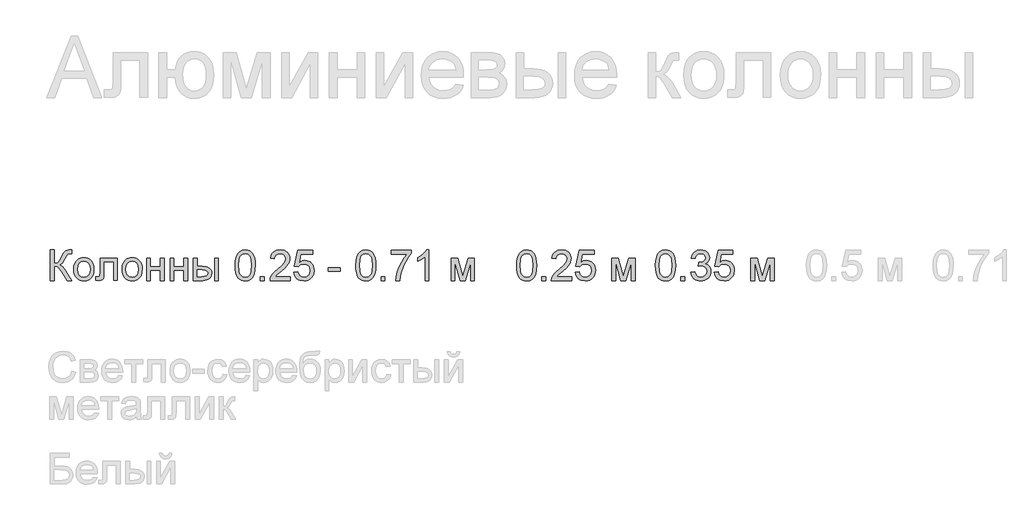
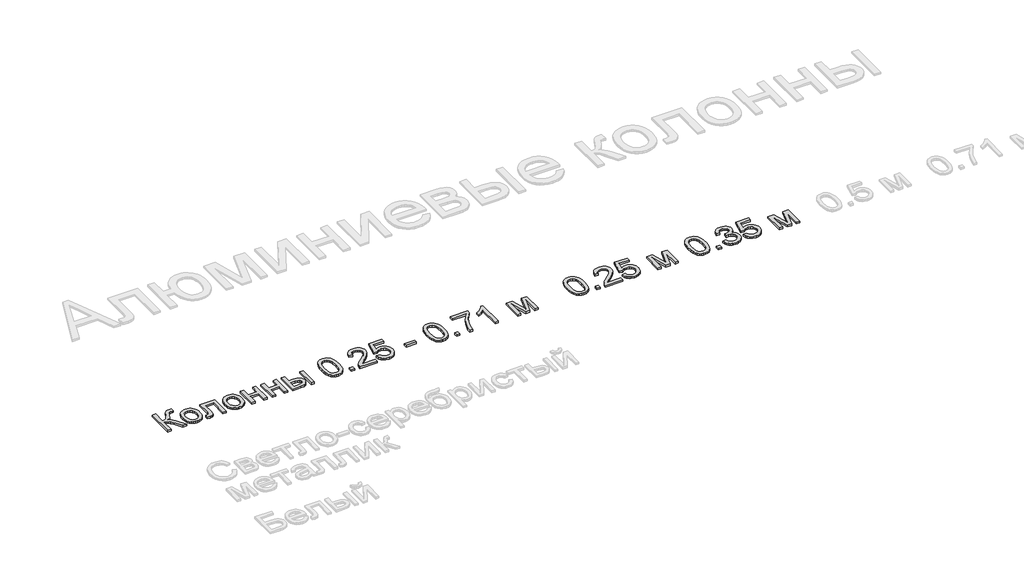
# One storey, part 78 of 168: 3 proxies.
"""IFC4 building model written with IfcOpenShell, lengths in millimetres."""

from ifc_helpers import new_model, si_unit, origin, origin_with_axes, place, context, project, spatial, polyline, outline, extrude, element, save

model = new_model("IFC4")

# Units and contexts
model_context = context("Model", 3, world=origin())
ifc_project = project(units=[si_unit("LENGTHUNIT", "METRE", prefix="MILLI")], contexts=[model_context])

# Site, building, storey
site = spatial("IfcSite", under=ifc_project)
building = spatial("IfcBuilding", under=site)
storey = spatial("IfcBuildingStorey", under=building, Name="Этаж 01", Elevation=0.0)

# Proxies
placement = place(None, origin())
element("IfcBuildingElementProxy", 1, Name="300 мм Arial 2", ObjectType="300 мм Arial 2", at=placement, inside=storey, context=model_context, shape_type="SweptSolid", body=[
    extrude(outline(polyline([(5364.6910629, -30818.6058537), (5367.459375, -30770.3673271), (5375.764311, -30731.8960674), (5389.5230976, -30702.6034635), (5408.6529614, -30681.9009043), (5433.291858, -30669.5952515), (5463.5777433, -30665.4933673), (5486.7910971, -30667.9213885), (5507.5764299, -30675.205452), (5524.9588541, -30687.0604493), (5537.9634827, -30703.2012718), (5547.7859319, -30723.4899638), (5555.6218184, -30747.7885696), (5560.7537723, -30778.644672), (5562.4644236, -30818.6058537), (5559.7237027, -30866.5684688), (5551.5015401, -30904.9477579), (5537.8255269, -30934.267953), (5518.7232543, -30955.0532857), (5494.0291754, -30967.4417119), (5463.5777433, -30971.5711873), (5442.8291987, -30969.7777625), (5424.435099, -30964.3974884), (5408.395444, -30955.4303647), (5394.7102338, -30942.8763916), (5381.5768465, -30920.1826711), (5372.1958556, -30891.9063412), (5366.5672611, -30858.0474021), (5364.6910629, -30818.6058537)]), holes=[polyline([(5402.3621793, -30818.5322773), (5406.7767632, -30877.7888697), (5412.2949931, -30898.0568683), (5420.020515, -30912.0846687), (5439.73899, -30928.4462204), (5463.5777433, -30933.900071), (5487.4164965, -30928.4278263), (5507.1349715, -30912.0110923), (5514.8604934, -30897.9602993), (5520.3787233, -30877.6968992), (5524.7933072, -30818.5322773), (5520.5258761, -30760.6092571), (5515.1915872, -30740.4079371), (5507.7235827, -30726.0467437), (5488.0418959, -30708.8850486), (5463.1362849, -30703.1644836), (5439.555049, -30708.2044669), (5420.6091262, -30723.3244169), (5412.6260869, -30738.9594017), (5406.923916, -30760.03904), (5402.3621793, -30818.5322773)])]), origin_with_axes(), (0.0, 0.0, 1.0), 20.0),
    extrude(outline(polyline([(5614.2622085, -30966.8622977), (5614.2622085, -30929.1911814), (5651.9333248, -30929.1911814), (5651.9333248, -30966.8622977), (5614.2622085, -30966.8622977)])), origin_with_axes(), (0.0, 0.0, 1.0), 20.0),
    extrude(outline(polyline([(5906.2133598, -30929.1911814), (5906.2133598, -30966.8622977), (5708.4399992, -30966.8622977), (5712.4867012, -30940.8898289), (5721.7757216, -30920.5919398), (5735.3689613, -30900.901056), (5755.0322539, -30880.2904672), (5782.5314331, -30857.2334632), (5823.1823935, -30821.1258453), (5847.5729698, -30794.4727948), (5859.768258, -30772.8413335), (5863.833354, -30751.7984834), (5859.9981842, -30732.9353341), (5848.4926748, -30717.254364), (5830.8067479, -30706.6869537), (5808.4303255, -30703.1644836), (5784.9318631, -30706.6041802), (5766.6757191, -30716.9232702), (5754.8942982, -30733.3124131), (5750.8200051, -30754.9622685), (5713.1488888, -30750.253379), (5722.2815593, -30713.8146674), (5730.8279179, -30699.27873), (5742.0276254, -30687.198405), (5755.6231644, -30677.702451), (5771.3570175, -30670.9196267), (5809.2396659, -30665.4933673), (5829.4294897, -30667.0016835), (5847.3982259, -30671.526632), (5863.1458745, -30679.0682129), (5876.6724356, -30689.6264262), (5887.5364508, -30702.4195226), (5895.2964616, -30716.6657528), (5899.9524681, -30732.365117), (5901.5044703, -30749.517615), (5899.8306072, -30767.5346357), (5894.809018, -30785.2389567), (5885.8970767, -30803.2467804), (5872.5521573, -30822.174309), (5851.2793809, -30844.7714606), (5818.5838686, -30873.788153), (5775.2473696, -30910.0245295), (5758.2512214, -30929.1911814), (5906.2133598, -30929.1911814)])), origin_with_axes(), (0.0, 0.0, 1.0), 20.0),
    extrude(outline(polyline([(5943.8844762, -30886.8111756), (5981.5555925, -30882.102286), (5988.471774, -30904.7178317), (6000.5383034, -30920.9138365), (6017.6999985, -30930.6535124), (6039.9016769, -30933.900071), (6066.9042153, -30929.3843195), (6087.1377251, -30915.837065), (6099.7744716, -30894.821806), (6103.9867205, -30867.902041), (6100.0411861, -30842.5549716), (6088.2045829, -30823.1675904), (6068.3849404, -30810.8619377), (6040.4902881, -30806.7600534), (6022.21575, -30808.3971283), (6007.4176967, -30813.3083529), (5986.264482, -30830.3045011), (5948.5933657, -30825.5956116), (5981.5555925, -30670.2022568), (6127.5311681, -30670.2022568), (6127.5311681, -30707.8733731), (6012.0162217, -30707.8733731), (5995.9029903, -30790.8675512), (6022.8135582, -30774.5335907), (6051.0117131, -30769.0889371), (6069.3575284, -30770.7765958), (6086.208823, -30775.8395717), (6101.5655971, -30784.277865), (6115.4278505, -30796.0914756), (6126.9034695, -30810.558435), (6135.1003402, -30826.956775), (6140.0184626, -30845.2864954), (6141.6578368, -30865.5475963), (6135.7533307, -30903.2187126), (6128.3726982, -30920.0125256), (6118.0398127, -30935.4451753), (6102.3864338, -30951.2503056), (6084.1210927, -30962.5396843), (6063.2437895, -30969.3133115), (6039.7545241, -30971.5711873), (6002.7547924, -30965.7678488), (5987.0761217, -30958.5136757), (5973.2782476, -30948.3578334), (5961.7980301, -30935.8061596), (5953.072329, -30921.364492), (5943.8844762, -30886.8111756)])), origin_with_axes(), (0.0, 0.0, 1.0), 20.0),
    extrude(outline(polyline([(6301.7600811, -30745.5444894), (6366.5808886, -30745.5444894), (6416.5392636, -30922.7164583), (6470.3971877, -30745.5444894), (6532.4956684, -30745.5444894), (6532.4956684, -30966.8622977), (6494.8245521, -30966.8622977), (6494.8245521, -30788.6602593), (6440.6723224, -30966.8622977), (6391.2289823, -30966.8622977), (6339.4311974, -30780.125397), (6339.4311974, -30966.8622977), (6301.7600811, -30966.8622977), (6301.7600811, -30745.5444894)])), origin_with_axes(), (0.0, 0.0, 1.0), 20.0),
])
element("IfcBuildingElementProxy", 2, Name="300 мм Arial 2", ObjectType="300 мм Arial 2", at=placement, inside=storey, context=model_context, shape_type="SweptSolid", body=[
    extrude(outline(polyline([(6730.6567427, -30818.6058537), (6733.4250547, -30770.3673271), (6741.7299907, -30731.8960674), (6755.4887774, -30702.6034635), (6774.6186411, -30681.9009043), (6799.2575377, -30669.5952515), (6829.543423, -30665.4933673), (6852.7567769, -30667.9213885), (6873.5421096, -30675.205452), (6890.9245339, -30687.0604493), (6903.9291624, -30703.2012718), (6913.7516117, -30723.4899638), (6921.5874982, -30747.7885696), (6926.719452, -30778.644672), (6928.4301033, -30818.6058537), (6925.6893824, -30866.5684688), (6917.4672198, -30904.9477579), (6903.7912067, -30934.267953), (6884.6889341, -30955.0532857), (6859.9948551, -30967.4417119), (6829.543423, -30971.5711873), (6808.7948785, -30969.7777625), (6790.4007787, -30964.3974884), (6774.3611237, -30955.4303647), (6760.6759135, -30942.8763916), (6747.5425263, -30920.1826711), (6738.1615354, -30891.9063412), (6732.5329409, -30858.0474021), (6730.6567427, -30818.6058537)]), holes=[polyline([(6768.327859, -30818.5322773), (6772.7424429, -30877.7888697), (6778.2606729, -30898.0568683), (6785.9861948, -30912.0846687), (6805.7046697, -30928.4462204), (6829.543423, -30933.900071), (6853.3821763, -30928.4278263), (6873.1006512, -30912.0110923), (6880.8261731, -30897.9602993), (6886.344403, -30877.6968992), (6890.758987, -30818.5322773), (6886.4915558, -30760.6092571), (6881.1572669, -30740.4079371), (6873.6892624, -30726.0467437), (6854.0075757, -30708.8850486), (6829.1019646, -30703.1644836), (6805.5207287, -30708.2044669), (6786.574806, -30723.3244169), (6778.5917667, -30738.9594017), (6772.8895957, -30760.03904), (6768.327859, -30818.5322773)])]), origin_with_axes(), (0.0, 0.0, 1.0), 20.0),
    extrude(outline(polyline([(6980.2278882, -30966.8622977), (6980.2278882, -30929.1911814), (7017.8990045, -30929.1911814), (7017.8990045, -30966.8622977), (6980.2278882, -30966.8622977)])), origin_with_axes(), (0.0, 0.0, 1.0), 20.0),
    extrude(outline(polyline([(7079.1145685, -30886.8111756), (7116.7856848, -30882.102286), (7125.2193796, -30905.7754924), (7137.5710176, -30921.7599651), (7154.4476041, -30930.8650445), (7176.4561444, -30933.900071), (7202.2814605, -30929.7246103), (7222.2206646, -30917.1982284), (7234.9677758, -30898.509823), (7239.2168128, -30875.8482921), (7235.004564, -30854.3363925), (7222.3678174, -30836.8895888), (7203.2379537, -30825.3288971), (7179.5463532, -30821.4753332), (7153.1324259, -30825.5956116), (7157.3262807, -30787.9244953), (7163.3595454, -30788.3659537), (7185.9291058, -30785.662021), (7206.1074333, -30777.550223), (7220.3444665, -30763.8282246), (7225.0901442, -30744.2936907), (7221.6504475, -30728.0241094), (7211.3313576, -30714.8263428), (7195.5860082, -30706.0799484), (7175.8675332, -30703.1644836), (7156.1122701, -30706.1075396), (7139.9622505, -30714.9367074), (7128.1716326, -30729.6519872), (7121.4945744, -30750.253379), (7083.8234581, -30745.5444894), (7094.9151002, -30711.71774), (7114.6519693, -30686.462641), (7141.6545077, -30670.7356857), (7174.5431581, -30665.4933673), (7198.2255615, -30668.0777383), (7219.9765845, -30675.8308513), (7238.3155019, -30688.0629277), (7251.7615889, -30704.0841886), (7260.0113426, -30722.5426677), (7262.7612605, -30742.0863987), (7260.1492983, -30760.2965574), (7252.3134118, -30776.814459), (7239.3639656, -30790.8859453), (7221.4113243, -30801.7568583), (7244.9925601, -30811.285002), (7262.4669549, -30827.508598), (7273.2826856, -30849.5447295), (7276.8879291, -30876.5104797), (7275.0853073, -30895.6219494), (7269.677442, -30913.2251028), (7260.6643331, -30929.3199401), (7248.0459807, -30943.9064612), (7232.6731118, -30956.0097789), (7215.3964536, -30964.6550058), (7196.2160061, -30969.8421419), (7175.1317693, -30971.5711873), (7156.0754819, -30970.0950608), (7138.7114517, -30965.6666812), (7123.0396787, -30958.2860487), (7109.0601629, -30947.9531632), (7097.3385229, -30935.2750299), (7088.4403771, -30920.8586542), (7082.3657256, -30904.7040361), (7079.1145685, -30886.8111756)])), origin_with_axes(), (0.0, 0.0, 1.0), 20.0),
    extrude(outline(polyline([(7309.8501559, -30886.8111756), (7347.5212722, -30882.102286), (7354.4374537, -30904.7178317), (7366.5039831, -30920.9138365), (7383.6656782, -30930.6535124), (7405.8673566, -30933.900071), (7432.8698951, -30929.3843195), (7453.1034048, -30915.837065), (7465.7401513, -30894.821806), (7469.9524002, -30867.902041), (7466.0068658, -30842.5549716), (7454.1702626, -30823.1675904), (7434.3506201, -30810.8619377), (7406.4559678, -30806.7600534), (7388.1814297, -30808.3971283), (7373.3833765, -30813.3083529), (7352.2301617, -30830.3045011), (7314.5590454, -30825.5956116), (7347.5212722, -30670.2022568), (7493.4968479, -30670.2022568), (7493.4968479, -30707.8733731), (7377.9819014, -30707.8733731), (7361.86867, -30790.8675512), (7388.779238, -30774.5335907), (7416.9773929, -30769.0889371), (7435.3232081, -30770.7765958), (7452.1745028, -30775.8395717), (7467.5312768, -30784.277865), (7481.3935302, -30796.0914756), (7492.8691492, -30810.558435), (7501.0660199, -30826.956775), (7505.9841424, -30845.2864954), (7507.6235165, -30865.5475963), (7501.7190105, -30903.2187126), (7494.3383779, -30920.0125256), (7484.0054924, -30935.4451753), (7468.3521135, -30951.2503056), (7450.0867725, -30962.5396843), (7429.2094692, -30969.3133115), (7405.7202038, -30971.5711873), (7368.7204722, -30965.7678488), (7353.0418014, -30958.5136757), (7339.2439273, -30948.3578334), (7327.7637098, -30935.8061596), (7319.0380087, -30921.364492), (7309.8501559, -30886.8111756)])), origin_with_axes(), (0.0, 0.0, 1.0), 20.0),
    extrude(outline(polyline([(7667.7257608, -30745.5444894), (7732.5465684, -30745.5444894), (7782.5049433, -30922.7164583), (7836.3628674, -30745.5444894), (7898.4613482, -30745.5444894), (7898.4613482, -30966.8622977), (7860.7902319, -30966.8622977), (7860.7902319, -30788.6602593), (7806.6380022, -30966.8622977), (7757.194662, -30966.8622977), (7705.3968771, -30780.125397), (7705.3968771, -30966.8622977), (7667.7257608, -30966.8622977), (7667.7257608, -30745.5444894)])), origin_with_axes(), (0.0, 0.0, 1.0), 20.0),
])
element("IfcBuildingElementProxy", 3, Name="300 мм Arial 2", ObjectType="300 мм Arial 2", at=placement, inside=storey, context=model_context, shape_type="SweptSolid", body=[
    extrude(outline(polyline([(778.8177316, -30665.4933673), (816.4888479, -30665.4933673), (816.4888479, -30797.3422744), (841.9922672, -30794.8498738), (858.6113363, -30787.3726723), (872.0482262, -30769.7787159), (888.0051077, -30736.9360507), (908.7904405, -30694.8135623), (918.8152248, -30683.4000234), (932.3348881, -30673.9546532), (948.3837402, -30667.6086888), (965.9960907, -30665.4933673), (990.7177608, -30665.9348257), (990.7177608, -30703.605942), (982.4036277, -30703.3852128), (974.0894946, -30703.1644836), (956.835829, -30705.4269579), (944.658935, -30712.2143807), (934.1742981, -30726.469808), (922.2917097, -30750.989143), (907.7143856, -30781.5233486), (895.620265, -30798.2251911), (869.611008, -30813.8233877), (884.2021276, -30820.0313964), (898.6920797, -30830.8563241), (927.3684812, -30866.3569367), (990.7177608, -30966.8622977), (947.0133798, -30966.8622977), (893.4497613, -30881.9551332), (872.7655961, -30854.7226686), (855.7418568, -30837.6253528), (838.3318413, -30828.6030469), (816.4888479, -30825.5956116), (816.4888479, -30966.8622977), (778.8177316, -30966.8622977), (778.8177316, -30665.4933673)])), origin_with_axes(), (0.0, 0.0, 1.0), 20.0),
    extrude(outline(polyline([(1009.5533189, -30856.2033936), (1011.5904655, -30827.5407876), (1017.7019051, -30802.8421102), (1027.8876379, -30782.1073612), (1042.1476637, -30765.3365408), (1056.5042586, -30754.6173791), (1072.3507755, -30746.9608351), (1089.6872145, -30742.3669087), (1108.5135756, -30740.8355999), (1129.2966091, -30742.7003018), (1148.0884813, -30748.2944073), (1164.8891921, -30757.6179167), (1179.6987417, -30770.6708297), (1191.7859645, -30787.0116881), (1200.4196951, -30806.1990334), (1205.5999334, -30828.2328656), (1207.3266795, -30853.1131848), (1204.273259, -30891.1705772), (1195.1129973, -30920.1412843), (1180.112609, -30941.837125), (1159.5388084, -30958.069918), (1135.1022468, -30968.19587), (1108.5135756, -30971.5711873), (1087.4270395, -30969.7133832), (1068.4604234, -30964.139971), (1051.6137273, -30954.8509506), (1036.8869512, -30941.8463221), (1024.9284871, -30925.3468146), (1016.386727, -30905.5731573), (1011.261671, -30882.5253503), (1009.5533189, -30856.2033936)]), holes=[polyline([(1047.2244352, -30856.1298172), (1051.5838369, -30890.2232811), (1064.6620418, -30914.5126898), (1084.3437286, -30929.0532257), (1108.5135756, -30933.900071), (1132.5730581, -30929.0256345), (1152.2179567, -30914.4023252), (1165.2961616, -30889.7910197), (1169.6555632, -30854.9525948), (1165.2685704, -30821.8524123), (1152.1075921, -30797.8940973), (1132.4351024, -30783.3535615), (1108.5135756, -30778.5067162), (1084.3437286, -30783.3351674), (1064.6620418, -30797.8205209), (1051.5838369, -30822.0547474), (1047.2244352, -30856.1298172)])]), origin_with_axes(), (0.0, 0.0, 1.0), 20.0),
    extrude(outline(polyline([(1268.5422435, -30745.5444894), (1438.0622669, -30745.5444894), (1438.0622669, -30966.6415685), (1400.3911506, -30966.6415685), (1400.3911506, -30783.2156057), (1306.2133598, -30783.2156057), (1306.2133598, -30888.7977384), (1303.6749741, -30937.5053145), (1298.9200993, -30948.5325773), (1289.7322465, -30958.069918), (1275.7895188, -30964.6642028), (1256.7700197, -30966.8622977), (1226.1622377, -30964.9493114), (1226.1622377, -30929.1911814), (1243.0112331, -30929.1911814), (1260.0441695, -30926.8735249), (1266.8499864, -30919.515885), (1268.5422435, -30886.6640228), (1268.5422435, -30745.5444894)])), origin_with_axes(), (0.0, 0.0, 1.0), 20.0),
    extrude(outline(polyline([(1485.1511623, -30856.2033936), (1487.1883089, -30827.5407876), (1493.2997485, -30802.8421102), (1503.4854812, -30782.1073612), (1517.7455071, -30765.3365408), (1532.1021019, -30754.6173791), (1547.9486189, -30746.9608351), (1565.2850579, -30742.3669087), (1584.111419, -30740.8355999), (1604.8944525, -30742.7003018), (1623.6863246, -30748.2944073), (1640.4870355, -30757.6179167), (1655.2965851, -30770.6708297), (1667.3838079, -30787.0116881), (1676.0175384, -30806.1990334), (1681.1977768, -30828.2328656), (1682.9245229, -30853.1131848), (1679.8711023, -30891.1705772), (1670.7108407, -30920.1412843), (1655.7104523, -30941.837125), (1635.1366517, -30958.069918), (1610.7000902, -30968.19587), (1584.111419, -30971.5711873), (1563.0248829, -30969.7133832), (1544.0582668, -30964.139971), (1527.2115707, -30954.8509506), (1512.4847945, -30941.8463221), (1500.5263304, -30925.3468146), (1491.9845704, -30905.5731573), (1486.8595143, -30882.5253503), (1485.1511623, -30856.2033936)]), holes=[polyline([(1522.8222786, -30856.1298172), (1527.1816803, -30890.2232811), (1540.2598852, -30914.5126898), (1559.9415719, -30929.0532257), (1584.111419, -30933.900071), (1608.1709015, -30929.0256345), (1627.8158, -30914.4023252), (1640.894005, -30889.7910197), (1645.2534066, -30854.9525948), (1640.8664138, -30821.8524123), (1627.7054354, -30797.8940973), (1608.0329457, -30783.3535615), (1584.111419, -30778.5067162), (1559.9415719, -30783.3351674), (1540.2598852, -30797.8205209), (1527.1816803, -30822.0547474), (1522.8222786, -30856.1298172)])]), origin_with_axes(), (0.0, 0.0, 1.0), 20.0),
    extrude(outline(polyline([(1725.3045288, -30745.5444894), (1762.9756451, -30745.5444894), (1762.9756451, -30830.3045011), (1861.8623254, -30830.3045011), (1861.8623254, -30745.5444894), (1899.5334417, -30745.5444894), (1899.5334417, -30966.8622977), (1861.8623254, -30966.8622977), (1861.8623254, -30867.9756174), (1762.9756451, -30867.9756174), (1762.9756451, -30966.8622977), (1725.3045288, -30966.8622977), (1725.3045288, -30745.5444894)])), origin_with_axes(), (0.0, 0.0, 1.0), 20.0),
    extrude(outline(polyline([(1956.0401161, -30745.5444894), (1993.7112324, -30745.5444894), (1993.7112324, -30830.3045011), (2092.5979127, -30830.3045011), (2092.5979127, -30745.5444894), (2130.269029, -30745.5444894), (2130.269029, -30966.8622977), (2092.5979127, -30966.8622977), (2092.5979127, -30867.9756174), (1993.7112324, -30867.9756174), (1993.7112324, -30966.8622977), (1956.0401161, -30966.8622977), (1956.0401161, -30745.5444894)])), origin_with_axes(), (0.0, 0.0, 1.0), 20.0),
    extrude(outline(polyline([(2393.9668432, -30745.5444894), (2431.6379595, -30745.5444894), (2431.6379595, -30966.8622977), (2393.9668432, -30966.8622977), (2393.9668432, -30745.5444894)])), origin_with_axes(), (0.0, 0.0, 1.0), 20.0),
    extrude(outline(polyline([(2186.7757035, -30745.5444894), (2224.4468198, -30745.5444894), (2224.4468198, -30825.5956116), (2271.0206804, -30825.5956116), (2311.2761677, -30830.3136982), (2327.4928659, -30836.2113064), (2341.1022005, -30844.4679579), (2351.8696466, -30854.7985442), (2359.5606796, -30866.9179567), (2364.1752994, -30880.8261954), (2365.713506, -30896.5232603), (2360.553961, -30923.4798135), (2345.075326, -30946.2241178), (2333.2134309, -30955.2533215), (2318.2659256, -30961.7027528), (2279.1140843, -30966.8622977), (2186.7757035, -30966.8622977), (2186.7757035, -30745.5444894)]), holes=[polyline([(2224.4468198, -30929.1911814), (2263.1480057, -30929.1911814), (2293.1487824, -30927.2138157), (2313.1063806, -30921.2817185), (2324.3083874, -30911.1557666), (2328.0423897, -30896.5968367), (2325.2740776, -30884.2911839), (2316.9691416, -30873.420271), (2299.2096383, -30865.8051137), (2268.0776244, -30863.2667279), (2224.4468198, -30863.2667279), (2224.4468198, -30929.1911814)])]), origin_with_axes(), (0.0, 0.0, 1.0), 20.0),
    extrude(outline(polyline([(2596.4490933, -30818.6058537), (2599.2174053, -30770.3673271), (2607.5223414, -30731.8960674), (2621.281128, -30702.6034635), (2640.4109918, -30681.9009043), (2665.0498884, -30669.5952515), (2695.3357736, -30665.4933673), (2718.5491275, -30667.9213885), (2739.3344603, -30675.205452), (2756.7168845, -30687.0604493), (2769.7215131, -30703.2012718), (2779.5439623, -30723.4899638), (2787.3798488, -30747.7885696), (2792.5118027, -30778.644672), (2794.2224539, -30818.6058537), (2791.4817331, -30866.5684688), (2783.2595705, -30904.9477579), (2769.5835573, -30934.267953), (2750.4812847, -30955.0532857), (2725.7872058, -30967.4417119), (2695.3357736, -30971.5711873), (2674.5872291, -30969.7777625), (2656.1931293, -30964.3974884), (2640.1534744, -30955.4303647), (2626.4682641, -30942.8763916), (2613.3348769, -30920.1826711), (2603.953886, -30891.9063412), (2598.3252915, -30858.0474021), (2596.4490933, -30818.6058537)]), holes=[polyline([(2634.1202096, -30818.5322773), (2638.5347936, -30877.7888697), (2644.0530235, -30898.0568683), (2651.7785454, -30912.0846687), (2671.4970203, -30928.4462204), (2695.3357736, -30933.900071), (2719.1745269, -30928.4278263), (2738.8930019, -30912.0110923), (2746.6185238, -30897.9602993), (2752.1367537, -30877.6968992), (2756.5513376, -30818.5322773), (2752.2839065, -30760.6092571), (2746.9496176, -30740.4079371), (2739.4816131, -30726.0467437), (2719.7999263, -30708.8850486), (2694.8943152, -30703.1644836), (2671.3130794, -30708.2044669), (2652.3671566, -30723.3244169), (2644.3841173, -30738.9594017), (2638.6819464, -30760.03904), (2634.1202096, -30818.5322773)])]), origin_with_axes(), (0.0, 0.0, 1.0), 20.0),
    extrude(outline(polyline([(2846.0202389, -30966.8622977), (2846.0202389, -30929.1911814), (2883.6913552, -30929.1911814), (2883.6913552, -30966.8622977), (2846.0202389, -30966.8622977)])), origin_with_axes(), (0.0, 0.0, 1.0), 20.0),
    extrude(outline(polyline([(3137.9713902, -30929.1911814), (3137.9713902, -30966.8622977), (2940.1980296, -30966.8622977), (2944.2447316, -30940.8898289), (2953.533752, -30920.5919398), (2967.1269917, -30900.901056), (2986.7902843, -30880.2904672), (3014.2894635, -30857.2334632), (3054.9404239, -30821.1258453), (3079.3310002, -30794.4727948), (3091.5262883, -30772.8413335), (3095.5913844, -30751.7984834), (3091.7562146, -30732.9353341), (3080.2507052, -30717.254364), (3062.5647783, -30706.6869537), (3040.1883559, -30703.1644836), (3016.6898935, -30706.6041802), (2998.4337495, -30716.9232702), (2986.6523286, -30733.3124131), (2982.5780355, -30754.9622685), (2944.9069192, -30750.253379), (2954.0395897, -30713.8146674), (2962.5859483, -30699.27873), (2973.7856558, -30687.198405), (2987.3811948, -30677.702451), (3003.1150479, -30670.9196267), (3040.9976963, -30665.4933673), (3061.1875201, -30667.0016835), (3079.1562563, -30671.526632), (3094.9039049, -30679.0682129), (3108.430466, -30689.6264262), (3119.2944812, -30702.4195226), (3127.054492, -30716.6657528), (3131.7104985, -30732.365117), (3133.2625007, -30749.517615), (3131.5886376, -30767.5346357), (3126.5670484, -30785.2389567), (3117.655107, -30803.2467804), (3104.3101877, -30822.174309), (3083.0374113, -30844.7714606), (3050.341899, -30873.788153), (3007.0053999, -30910.0245295), (2990.0092518, -30929.1911814), (3137.9713902, -30929.1911814)])), origin_with_axes(), (0.0, 0.0, 1.0), 20.0),
    extrude(outline(polyline([(3175.6425065, -30886.8111756), (3213.3136228, -30882.102286), (3220.2298044, -30904.7178317), (3232.2963338, -30920.9138365), (3249.4580289, -30930.6535124), (3271.6597073, -30933.900071), (3298.6622457, -30929.3843195), (3318.8957555, -30915.837065), (3331.532502, -30894.821806), (3335.7447508, -30867.902041), (3331.7992164, -30842.5549716), (3319.9626132, -30823.1675904), (3300.1429708, -30810.8619377), (3272.2483185, -30806.7600534), (3253.9737804, -30808.3971283), (3239.1757271, -30813.3083529), (3218.0225124, -30830.3045011), (3180.3513961, -30825.5956116), (3213.3136228, -30670.2022568), (3359.2891985, -30670.2022568), (3359.2891985, -30707.8733731), (3243.774252, -30707.8733731), (3227.6610207, -30790.8675512), (3254.5715886, -30774.5335907), (3282.7697435, -30769.0889371), (3301.1155588, -30770.7765958), (3317.9668534, -30775.8395717), (3333.3236275, -30784.277865), (3347.1858809, -30796.0914756), (3358.6614999, -30810.558435), (3366.8583706, -30826.956775), (3371.776493, -30845.2864954), (3373.4158671, -30865.5475963), (3367.5113611, -30903.2187126), (3360.1307286, -30920.0125256), (3349.7978431, -30935.4451753), (3334.1444642, -30951.2503056), (3315.8791231, -30962.5396843), (3295.0018199, -30969.3133115), (3271.5125545, -30971.5711873), (3234.5128228, -30965.7678488), (3218.834152, -30958.5136757), (3205.036278, -30948.3578334), (3193.5560604, -30935.8061596), (3184.8303594, -30921.364492), (3175.6425065, -30886.8111756)])), origin_with_axes(), (0.0, 0.0, 1.0), 20.0),
    extrude(outline(polyline([(3514.6825533, -30877.3933965), (3514.6825533, -30839.7222802), (3632.4047917, -30839.7222802), (3632.4047917, -30877.3933965), (3514.6825533, -30877.3933965)])), origin_with_axes(), (0.0, 0.0, 1.0), 20.0),
    extrude(outline(polyline([(3783.089257, -30818.6058537), (3785.857569, -30770.3673271), (3794.162505, -30731.8960674), (3807.9212916, -30702.6034635), (3827.0511554, -30681.9009043), (3851.690052, -30669.5952515), (3881.9759373, -30665.4933673), (3905.1892912, -30667.9213885), (3925.9746239, -30675.205452), (3943.3570482, -30687.0604493), (3956.3616767, -30703.2012718), (3966.184126, -30723.4899638), (3974.0200125, -30747.7885696), (3979.1519663, -30778.644672), (3980.8626176, -30818.6058537), (3978.1218967, -30866.5684688), (3969.8997341, -30904.9477579), (3956.223721, -30934.267953), (3937.1214484, -30955.0532857), (3912.4273694, -30967.4417119), (3881.9759373, -30971.5711873), (3861.2273927, -30969.7777625), (3842.833293, -30964.3974884), (3826.793638, -30955.4303647), (3813.1084278, -30942.8763916), (3799.9750406, -30920.1826711), (3790.5940497, -30891.9063412), (3784.9654551, -30858.0474021), (3783.089257, -30818.6058537)]), holes=[polyline([(3820.7603733, -30818.5322773), (3825.1749572, -30877.7888697), (3830.6931872, -30898.0568683), (3838.418709, -30912.0846687), (3858.137184, -30928.4462204), (3881.9759373, -30933.900071), (3905.8146906, -30928.4278263), (3925.5331655, -30912.0110923), (3933.2586874, -30897.9602993), (3938.7769173, -30877.6968992), (3943.1915013, -30818.5322773), (3938.9240701, -30760.6092571), (3933.5897812, -30740.4079371), (3926.1217767, -30726.0467437), (3906.44009, -30708.8850486), (3881.5344789, -30703.1644836), (3857.953243, -30708.2044669), (3839.0073202, -30723.3244169), (3831.0242809, -30738.9594017), (3825.32211, -30760.03904), (3820.7603733, -30818.5322773)])]), origin_with_axes(), (0.0, 0.0, 1.0), 20.0),
    extrude(outline(polyline([(4032.6604025, -30966.8622977), (4032.6604025, -30929.1911814), (4070.3315188, -30929.1911814), (4070.3315188, -30966.8622977), (4032.6604025, -30966.8622977)])), origin_with_axes(), (0.0, 0.0, 1.0), 20.0),
    extrude(outline(polyline([(4131.5470828, -30707.8733731), (4131.5470828, -30670.2022568), (4329.3204434, -30670.2022568), (4329.3204434, -30700.662886), (4301.1314855, -30736.3382425), (4273.2184391, -30781.7072896), (4248.5979366, -30832.6313547), (4230.2866103, -30884.9717656), (4221.3102896, -30924.132804), (4216.3070945, -30966.8622977), (4178.6359782, -30966.8622977), (4182.7102713, -30928.0323531), (4193.6087754, -30881.8815568), (4211.0371849, -30832.9624485), (4234.7011943, -30785.8275679), (4262.3291321, -30743.2176358), (4291.6493271, -30707.8733731), (4131.5470828, -30707.8733731)])), origin_with_axes(), (0.0, 0.0, 1.0), 20.0),
    extrude(outline(polyline([(4503.5493563, -30966.8622977), (4465.87824, -30966.8622977), (4465.87824, -30732.006432), (4430.1936865, -30757.4270779), (4390.5360074, -30776.446577), (4390.5360074, -30740.8355999), (4420.1229169, -30724.7407626), (4445.7550949, -30705.5925048), (4465.9610135, -30685.2302363), (4479.2691446, -30665.4933673), (4503.5493563, -30665.4933673), (4503.5493563, -30966.8622977)])), origin_with_axes(), (0.0, 0.0, 1.0), 20.0),
    extrude(outline(polyline([(4720.1582751, -30745.5444894), (4784.9790826, -30745.5444894), (4834.9374576, -30922.7164583), (4888.7953817, -30745.5444894), (4950.8938625, -30745.5444894), (4950.8938625, -30966.8622977), (4913.2227462, -30966.8622977), (4913.2227462, -30788.6602593), (4859.0705165, -30966.8622977), (4809.6271763, -30966.8622977), (4757.8293914, -30780.125397), (4757.8293914, -30966.8622977), (4720.1582751, -30966.8622977), (4720.1582751, -30745.5444894)])), origin_with_axes(), (0.0, 0.0, 1.0), 20.0),
])

save(model, "model.ifc")
